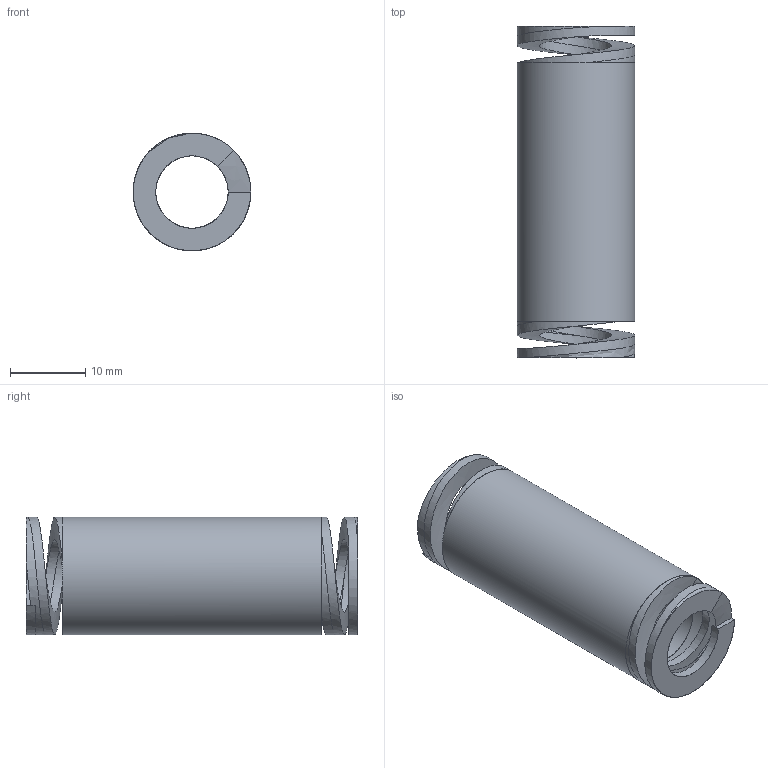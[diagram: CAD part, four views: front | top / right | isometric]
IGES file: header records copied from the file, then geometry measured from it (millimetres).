
Global section: file name: 3S16045; native system: Autodesk Inventor 2026; preprocessor: unknown; author: J. Iwanek; date: 20261007.113857; units: millimetre
Bounding box: 15.61 x 44 x 15.61 mm (x, y, z)
Volume: 2702.3 mm3; surface area: 3651 mm2
Topology: 1 solids, 1 shells, 22 faces, 72 edges, 45 vertices
Faces by surface type: bspline 22
